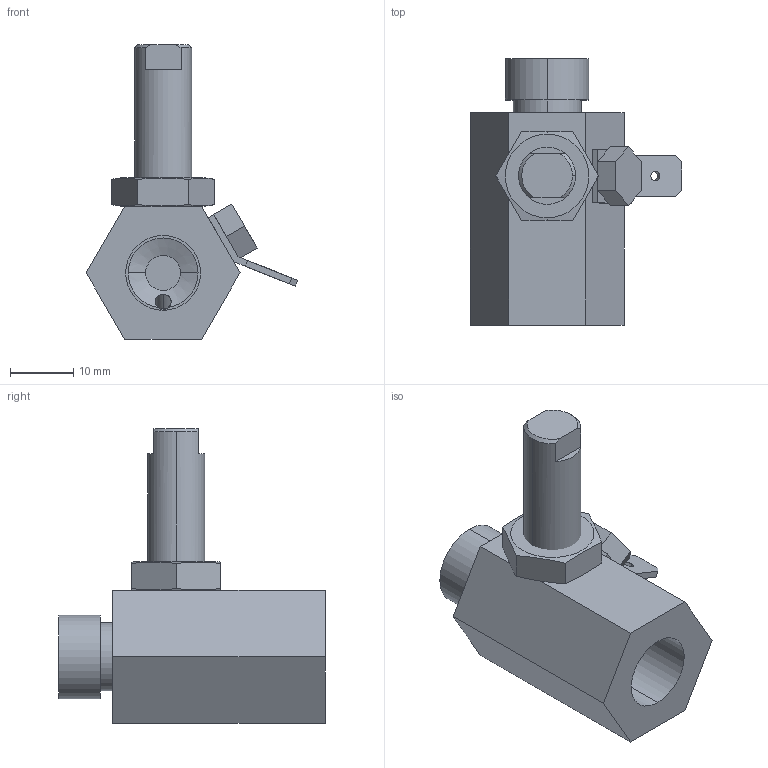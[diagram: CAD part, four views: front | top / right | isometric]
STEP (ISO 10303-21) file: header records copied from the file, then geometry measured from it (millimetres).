
FILE_DESCRIPTION (( 'STEP AP203' ), '1' );
FILE_NAME ('2EJR21C1412000A.STEP', '2017-04-20T10:15:52', ( 'FMI' ), ( 'Hewlett-Packard Company' ), 'SwSTEP 2.0', 'SolidWorks 2010', '' );
FILE_SCHEMA (( 'CONFIG_CONTROL_DESIGN' ));
Length unit declared in the file: millimetre
Products named in the file (6): 2EJR21C1412000A; Corps 2EJR21_2EJR21C; Mélangeur 2EJR21_S095111; F64.D250.18; F82.534929; C29_Vis H acier ZB CL8.8_vis H M 5x  8 
Assembly tree (5 placements, depth 2):
  2EJR21C1412000A
    C29_Vis H acier ZB CL8.8_vis H M 5x  8 
    Mélangeur 2EJR21_S095111
    Corps 2EJR21_2EJR21C
    F82.534929
    F64.D250.18
Bounding box: 33.35 x 42 x 46.5 mm (x, y, z)
Volume: 13641.7 mm3; surface area: 7166.3 mm2
Topology: 5 solids, 5 shells, 102 faces, 245 edges, 158 vertices
Faces by surface type: plane 53, cylinder 30, cone 19
Entity records: 3746 total; most frequent: CARTESIAN_POINT 713, DIRECTION 514, ORIENTED_EDGE 486, EDGE_CURVE 243, AXIS2_PLACEMENT_3D 189, VERTEX_POINT 158, LINE 136, VECTOR 136
